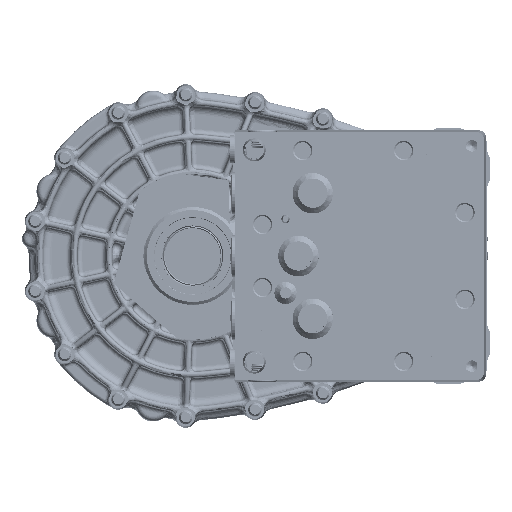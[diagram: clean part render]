
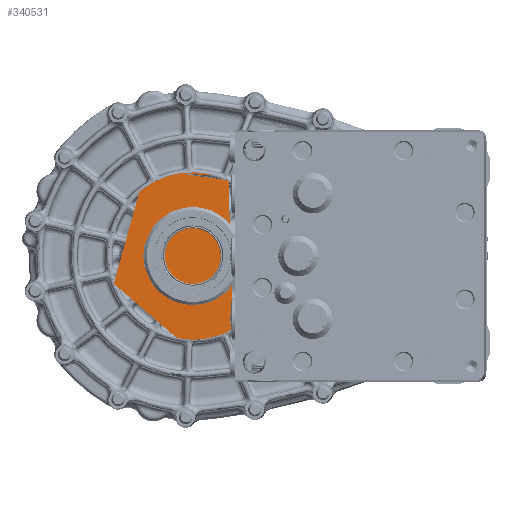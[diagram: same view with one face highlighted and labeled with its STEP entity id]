
A CAD part, front view. The second image highlights one B-rep face of the part: STEP entity #340531.
In plain terms, the highlighted planar face has unit normal (0, -1, 0).
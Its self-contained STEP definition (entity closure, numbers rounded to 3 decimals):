
#311719=CARTESIAN_POINT('Vertex',(41.645,-81.2,-43.289)) ;
#311749=CARTESIAN_POINT('Vertex',(41.54,-81.2,-43.2)) ;
#311752=CARTESIAN_POINT('Axis2P3D Location',(50.308,-81.2,-32.964)) ;
#312739=CARTESIAN_POINT('Vertex',(41.54,-81.2,43.2)) ;
#312769=CARTESIAN_POINT('Vertex',(41.645,-81.2,43.289)) ;
#312772=CARTESIAN_POINT('Axis2P3D Location',(50.308,-81.2,32.964)) ;
#340324=CARTESIAN_POINT('Axis2P3D Location',(0.,-81.2,0.)) ;
#340491=CARTESIAN_POINT('Axis2P3D Location',(0.,-81.2,0.)) ;
#340497=CARTESIAN_POINT('Control Point',(41.54,-81.2,-43.2)) ;
#340498=CARTESIAN_POINT('Control Point',(36.493,-81.2,-48.053)) ;
#340499=CARTESIAN_POINT('Control Point',(30.737,-81.2,-52.169)) ;
#340500=CARTESIAN_POINT('Control Point',(24.416,-81.2,-55.41)) ;
#340501=CARTESIAN_POINT('Control Point',(11.012,-81.2,-59.951)) ;
#340502=CARTESIAN_POINT('Control Point',(-3.131,-81.2,-60.469)) ;
#340503=CARTESIAN_POINT('Control Point',(-10.191,-81.2,-59.687)) ;
#340504=CARTESIAN_POINT('Control Point',(-23.876,-81.2,-56.083)) ;
#340505=CARTESIAN_POINT('Control Point',(-35.96,-81.2,-48.716)) ;
#340506=CARTESIAN_POINT('Control Point',(-41.418,-81.2,-44.169)) ;
#340507=CARTESIAN_POINT('Control Point',(-50.847,-81.2,-33.616)) ;
#340508=CARTESIAN_POINT('Control Point',(-56.863,-81.2,-20.806)) ;
#340509=CARTESIAN_POINT('Control Point',(-58.909,-81.2,-14.004)) ;
#340510=CARTESIAN_POINT('Control Point',(-60.954,-81.2,0.)) ;
#340511=CARTESIAN_POINT('Control Point',(-58.909,-81.2,14.004)) ;
#340512=CARTESIAN_POINT('Control Point',(-56.863,-81.2,20.806)) ;
#340513=CARTESIAN_POINT('Control Point',(-50.847,-81.2,33.616)) ;
#340514=CARTESIAN_POINT('Control Point',(-41.418,-81.2,44.169)) ;
#340515=CARTESIAN_POINT('Control Point',(-35.96,-81.2,48.716)) ;
#340516=CARTESIAN_POINT('Control Point',(-23.876,-81.2,56.083)) ;
#340517=CARTESIAN_POINT('Control Point',(-10.191,-81.2,59.687)) ;
#340518=CARTESIAN_POINT('Control Point',(-3.131,-81.2,60.469)) ;
#340519=CARTESIAN_POINT('Control Point',(11.012,-81.2,59.951)) ;
#340520=CARTESIAN_POINT('Control Point',(24.416,-81.2,55.41)) ;
#340521=CARTESIAN_POINT('Control Point',(30.737,-81.2,52.169)) ;
#340522=CARTESIAN_POINT('Control Point',(36.493,-81.2,48.053)) ;
#340523=CARTESIAN_POINT('Control Point',(41.54,-81.2,43.2)) ;
#311753=DIRECTION('Axis2P3D Direction',(-0.,1.,0.)) ;
#312773=DIRECTION('Axis2P3D Direction',(0.,1.,0.)) ;
#340325=DIRECTION('Axis2P3D Direction',(-0.,1.,0.)) ;
#340492=DIRECTION('Axis2P3D Direction',(0.,1.,0.)) ;
#340493=DIRECTION('Axis2P3D XDirection',(0.,0.,1.)) ;
#311754=AXIS2_PLACEMENT_3D('Circle Axis2P3D',#311752,#311753,$) ;
#312774=AXIS2_PLACEMENT_3D('Circle Axis2P3D',#312772,#312773,$) ;
#340326=AXIS2_PLACEMENT_3D('Circle Axis2P3D',#340324,#340325,$) ;
#340494=AXIS2_PLACEMENT_3D('Plane Axis2P3D',#340491,#340492,#340493) ;
#340526=ORIENTED_EDGE('',*,*,#340524,.T.) ;
#340527=ORIENTED_EDGE('',*,*,#312776,.F.) ;
#340528=ORIENTED_EDGE('',*,*,#340328,.T.) ;
#340529=ORIENTED_EDGE('',*,*,#311756,.F.) ;
#340531=ADVANCED_FACE('TRANSMISSION',(#340530),#340495,.F.) ;
#340496=B_SPLINE_CURVE_WITH_KNOTS('',5,(#340497,#340498,#340499,#340500,#340501,#340502,#340503,#340504,#340505,#340506,#340507,#340508,#340509,#340510,#340511,#340512,#340513,#340514,#340515,#340516,#340517,#340518,#340519,#340520,#340521,#340522,#340523),.UNSPECIFIED.,.F.,.U.,(6,3,3,3,3,3,3,3,6),(142.384,177.393,212.402,247.411,282.42,317.429,352.438,387.447,422.456),.UNSPECIFIED.) ;
#311755=CIRCLE('generated circle',#311754,13.478) ;
#312775=CIRCLE('generated circle',#312774,13.478) ;
#340327=CIRCLE('generated circle',#340326,60.069) ;
#311756=EDGE_CURVE('',#311750,#311720,#311755,.F.) ;
#312776=EDGE_CURVE('',#312770,#312740,#312775,.F.) ;
#340328=EDGE_CURVE('',#312770,#311720,#340327,.F.) ;
#340524=EDGE_CURVE('',#311750,#312740,#340496,.T.) ;
#340525=EDGE_LOOP('',(#340526,#340527,#340528,#340529)) ;
#340530=FACE_OUTER_BOUND('',#340525,.T.) ;
#340495=PLANE('Plane',#340494) ;
#311720=VERTEX_POINT('',#311719) ;
#311750=VERTEX_POINT('',#311749) ;
#312740=VERTEX_POINT('',#312739) ;
#312770=VERTEX_POINT('',#312769) ;
